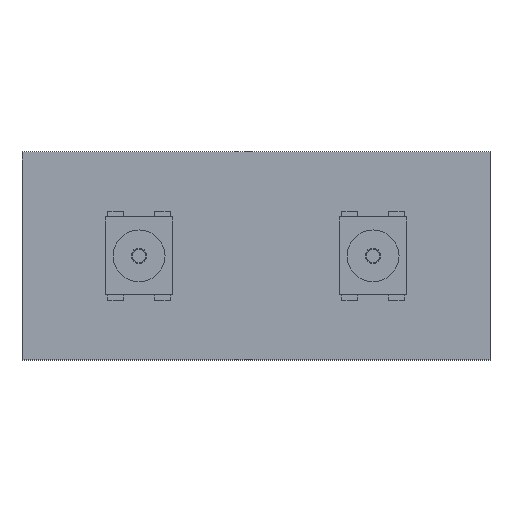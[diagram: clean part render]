
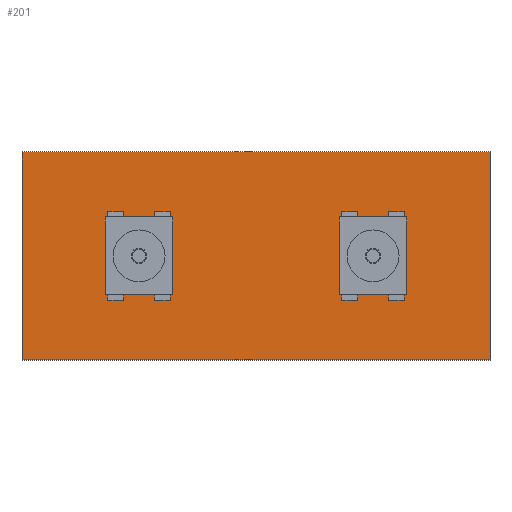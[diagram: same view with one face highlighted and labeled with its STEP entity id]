
A CAD part, top view. The second image highlights one B-rep face of the part: STEP entity #201.
In plain terms, the highlighted planar face has unit normal (0, 0, 1).
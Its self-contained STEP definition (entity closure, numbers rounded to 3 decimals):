
#72 = VERTEX_POINT('',#73);
#73 = CARTESIAN_POINT('',(0.,0.,1.6));
#79 = EDGE_CURVE('',#72,#80,#82,.T.);
#80 = VERTEX_POINT('',#81);
#81 = CARTESIAN_POINT('',(0.,8.,1.6));
#82 = LINE('',#83,#84);
#83 = CARTESIAN_POINT('',(0.,0.,1.6));
#84 = VECTOR('',#85,1.);
#85 = DIRECTION('',(0.,1.,0.));
#110 = EDGE_CURVE('',#80,#111,#113,.T.);
#111 = VERTEX_POINT('',#112);
#112 = CARTESIAN_POINT('',(18.,8.,1.6));
#113 = LINE('',#114,#115);
#114 = CARTESIAN_POINT('',(0.,8.,1.6));
#115 = VECTOR('',#116,1.);
#116 = DIRECTION('',(1.,0.,0.));
#141 = EDGE_CURVE('',#111,#142,#144,.T.);
#142 = VERTEX_POINT('',#143);
#143 = CARTESIAN_POINT('',(18.,0.,1.6));
#144 = LINE('',#145,#146);
#145 = CARTESIAN_POINT('',(18.,8.,1.6));
#146 = VECTOR('',#147,1.);
#147 = DIRECTION('',(0.,-1.,0.));
#172 = EDGE_CURVE('',#142,#72,#173,.T.);
#173 = LINE('',#174,#175);
#174 = CARTESIAN_POINT('',(18.,0.,1.6));
#175 = VECTOR('',#176,1.);
#176 = DIRECTION('',(-1.,0.,0.));
#201 = ADVANCED_FACE('',(#202),#208,.T.);
#202 = FACE_BOUND('',#203,.F.);
#203 = EDGE_LOOP('',(#204,#205,#206,#207));
#204 = ORIENTED_EDGE('',*,*,#79,.T.);
#205 = ORIENTED_EDGE('',*,*,#110,.T.);
#206 = ORIENTED_EDGE('',*,*,#141,.T.);
#207 = ORIENTED_EDGE('',*,*,#172,.T.);
#208 = PLANE('',#209);
#209 = AXIS2_PLACEMENT_3D('',#210,#211,#212);
#210 = CARTESIAN_POINT('',(0.,0.,1.6));
#211 = DIRECTION('',(0.,0.,1.));
#212 = DIRECTION('',(1.,0.,0.));
